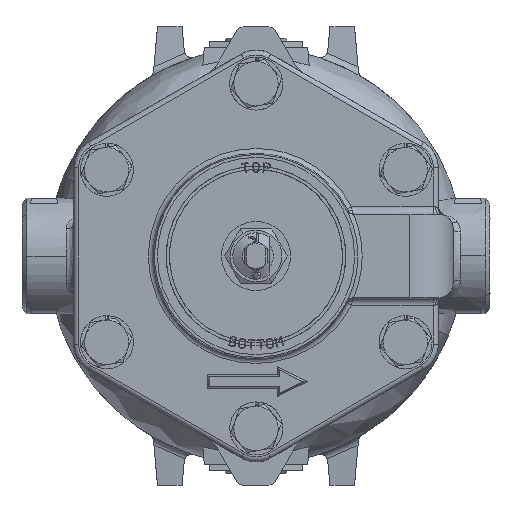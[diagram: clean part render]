
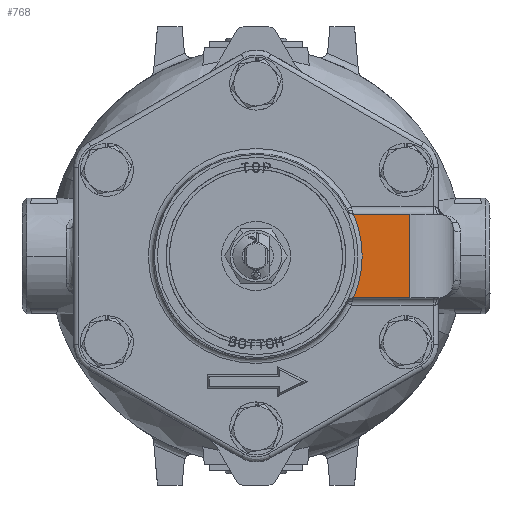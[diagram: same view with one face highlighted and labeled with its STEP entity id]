
A CAD part, front view. The second image highlights one B-rep face of the part: STEP entity #768.
In plain terms, the highlighted planar face has unit normal (0, -1, 0) as drawn and (0, 1, 0) by its records, which use the part's own axes.
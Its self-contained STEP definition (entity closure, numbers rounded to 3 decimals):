
#768=ADVANCED_FACE('',(#4056),#4055,.F.);
#4055=PLANE('',#12483);
#4056=FACE_OUTER_BOUND('',#12484,.T.);
#12480=CARTESIAN_POINT('',(-64.79,24.5,-20.4));
#12481=DIRECTION('',(0.,-1.,0.));
#12482=DIRECTION('',(1.,0.,0.));
#12483=AXIS2_PLACEMENT_3D('',#12480,#12481,#12482);
#12484=EDGE_LOOP('',(#29295,#29296,#29297,#29298));
#29295=ORIENTED_EDGE('',*,*,#33641,.F.);
#29296=ORIENTED_EDGE('',*,*,#33642,.T.);
#29297=ORIENTED_EDGE('',*,*,#33643,.T.);
#29298=ORIENTED_EDGE('',*,*,#33644,.F.);
#33641=EDGE_CURVE('',#41497,#41498,#41499,.T.);
#33642=EDGE_CURVE('',#41497,#41505,#41506,.T.);
#33643=EDGE_CURVE('',#41505,#41512,#41513,.T.);
#33644=EDGE_CURVE('',#41498,#41512,#41519,.T.);
#41497=VERTEX_POINT('',#58737);
#41498=VERTEX_POINT('',#58738);
#41499=LINE('',#58739,#58740);
#41505=VERTEX_POINT('',#58742);
#41506=(BOUNDED_CURVE() B_SPLINE_CURVE(3,(#58743,#58744,#58745,#58746,#58747,#58748,#58749,#58750),.UNSPECIFIED.,.F.,.F.) B_SPLINE_CURVE_WITH_KNOTS((4,1,1,1,1,4),(0.,7.645,12.56,19.386,27.032,34.95),.UNSPECIFIED.) CURVE() GEOMETRIC_REPRESENTATION_ITEM() RATIONAL_B_SPLINE_CURVE((1.,1.,1.,1.,1.,1.,1.,1.)) REPRESENTATION_ITEM('') );
#41512=VERTEX_POINT('',#58751);
#41513=LINE('',#58752,#58753);
#41519=LINE('',#58755,#58756);
#58737=CARTESIAN_POINT('',(-39.6,24.5,17.));
#58738=CARTESIAN_POINT('',(-62.5,24.5,17.));
#58739=CARTESIAN_POINT('',(-39.6,24.5,17.));
#58740=VECTOR('',#58741,22.9);
#58741=DIRECTION('',(-1.,0.,0.));
#58742=CARTESIAN_POINT('',(-39.6,24.5,-17.));
#58743=CARTESIAN_POINT('',(-39.6,24.5,17.));
#58744=CARTESIAN_POINT('',(-40.606,24.5,14.658));
#58745=CARTESIAN_POINT('',(-41.915,24.5,10.664));
#58746=CARTESIAN_POINT('',(-43.017,24.5,4.286));
#58747=CARTESIAN_POINT('',(-43.243,24.5,-2.192));
#58748=CARTESIAN_POINT('',(-42.249,24.5,-9.619));
#58749=CARTESIAN_POINT('',(-40.642,24.5,-14.575));
#58750=CARTESIAN_POINT('',(-39.6,24.5,-17.));
#58751=CARTESIAN_POINT('',(-62.5,24.5,-17.));
#58752=CARTESIAN_POINT('',(-39.6,24.5,-17.));
#58753=VECTOR('',#58754,22.9);
#58754=DIRECTION('',(-1.,0.,0.));
#58755=CARTESIAN_POINT('',(-62.5,24.5,17.));
#58756=VECTOR('',#58757,34.);
#58757=DIRECTION('',(0.,0.,-1.));
